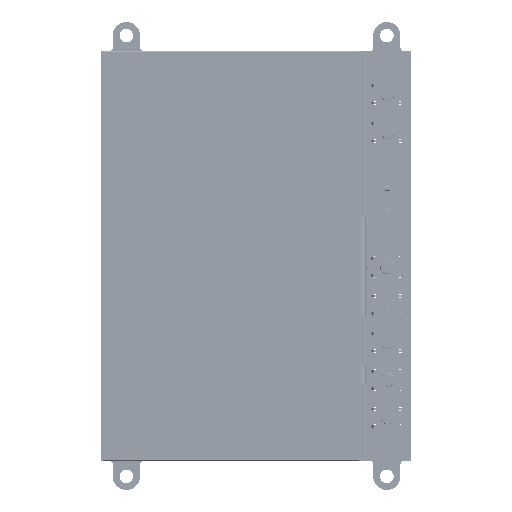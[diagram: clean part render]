
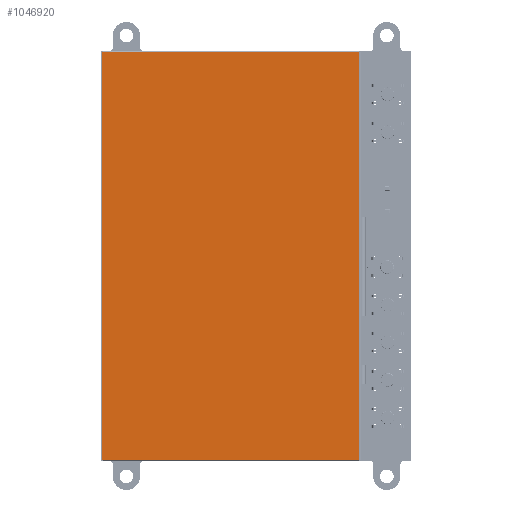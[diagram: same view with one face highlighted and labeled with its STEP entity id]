
A CAD part, top view. The second image highlights one B-rep face of the part: STEP entity #1046920.
In plain terms, the highlighted planar face has unit normal (0, 0, 1).
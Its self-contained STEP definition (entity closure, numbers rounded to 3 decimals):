
#77812 = CARTESIAN_POINT ( 'NONE',  ( -26.1, 16.386, 1.2 ) ) ;
#77818 = DIRECTION ( 'NONE',  ( 0., -1., 0. ) ) ;
#85939 = LINE ( 'NONE', #77812, #85952 ) ;
#85952 = VECTOR ( 'NONE', #77818, 1000. ) ;
#92159 = LINE ( 'NONE', #123421, #92386 ) ;
#92386 = VECTOR ( 'NONE', #123425, 1000. ) ;
#92480 = LINE ( 'NONE', #123441, #92492 ) ;
#92492 = VECTOR ( 'NONE', #123445, 1000. ) ;
#94233 = LINE ( 'NONE', #124420, #94246 ) ;
#94246 = VECTOR ( 'NONE', #124426, 1000. ) ;
#123421 = CARTESIAN_POINT ( 'NONE',  ( 79.04, 16.386, 1.2 ) ) ;
#123425 = DIRECTION ( 'NONE',  ( 0., 1., 0. ) ) ;
#123441 = CARTESIAN_POINT ( 'NONE',  ( -26.1, 16.386, 1.2 ) ) ;
#123445 = DIRECTION ( 'NONE',  ( -1., 0., 0. ) ) ;
#124420 = CARTESIAN_POINT ( 'NONE',  ( -26.1, -49.824, 1.2 ) ) ;
#124426 = DIRECTION ( 'NONE',  ( 1., 0., 0. ) ) ;
#265680 = EDGE_LOOP ( 'NONE', ( #961922, #961891, #961860, #961825 ) ) ;
#346237 = AXIS2_PLACEMENT_3D ( 'NONE', #537129, #537253, #537260 ) ;
#469700 = VERTEX_POINT ( 'NONE', #737909 ) ;
#469818 = VERTEX_POINT ( 'NONE', #738350 ) ;
#469878 = VERTEX_POINT ( 'NONE', #738585 ) ;
#470215 = VERTEX_POINT ( 'NONE', #739821 ) ;
#537129 = CARTESIAN_POINT ( 'NONE',  ( -26.1, -49.824, 1.2 ) ) ;
#537182 = PLANE ( 'NONE',  #346237 ) ;
#537253 = DIRECTION ( 'NONE',  ( 0., 0., 1. ) ) ;
#537260 = DIRECTION ( 'NONE',  ( 1., 0., 0. ) ) ;
#544887 = FACE_OUTER_BOUND ( 'NONE', #265680, .T. ) ;
#737909 = CARTESIAN_POINT ( 'NONE',  ( -26.1, -49.824, 1.2 ) ) ;
#738350 = CARTESIAN_POINT ( 'NONE',  ( -26.1, 16.386, 1.2 ) ) ;
#738585 = CARTESIAN_POINT ( 'NONE',  ( 79.04, 16.386, 1.2 ) ) ;
#739821 = CARTESIAN_POINT ( 'NONE',  ( 79.04, -49.824, 1.2 ) ) ;
#829902 = EDGE_CURVE ( 'NONE', #469818, #469700, #85939, .T. ) ;
#830984 = EDGE_CURVE ( 'NONE', #470215, #469878, #92159, .T. ) ;
#830991 = EDGE_CURVE ( 'NONE', #469878, #469818, #92480, .T. ) ;
#831285 = EDGE_CURVE ( 'NONE', #469700, #470215, #94233, .T. ) ;
#961825 = ORIENTED_EDGE ( 'NONE', *, *, #830991, .T. ) ;
#961860 = ORIENTED_EDGE ( 'NONE', *, *, #830984, .T. ) ;
#961891 = ORIENTED_EDGE ( 'NONE', *, *, #831285, .T. ) ;
#961922 = ORIENTED_EDGE ( 'NONE', *, *, #829902, .T. ) ;
#1046920 = ADVANCED_FACE ( 'NONE', ( #544887 ), #537182, .T. ) ;
